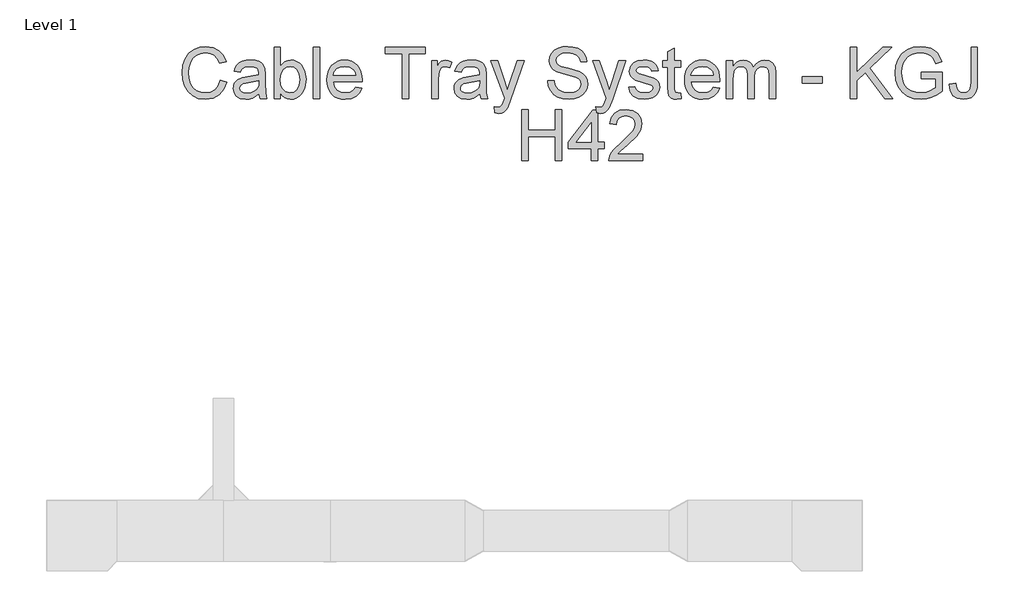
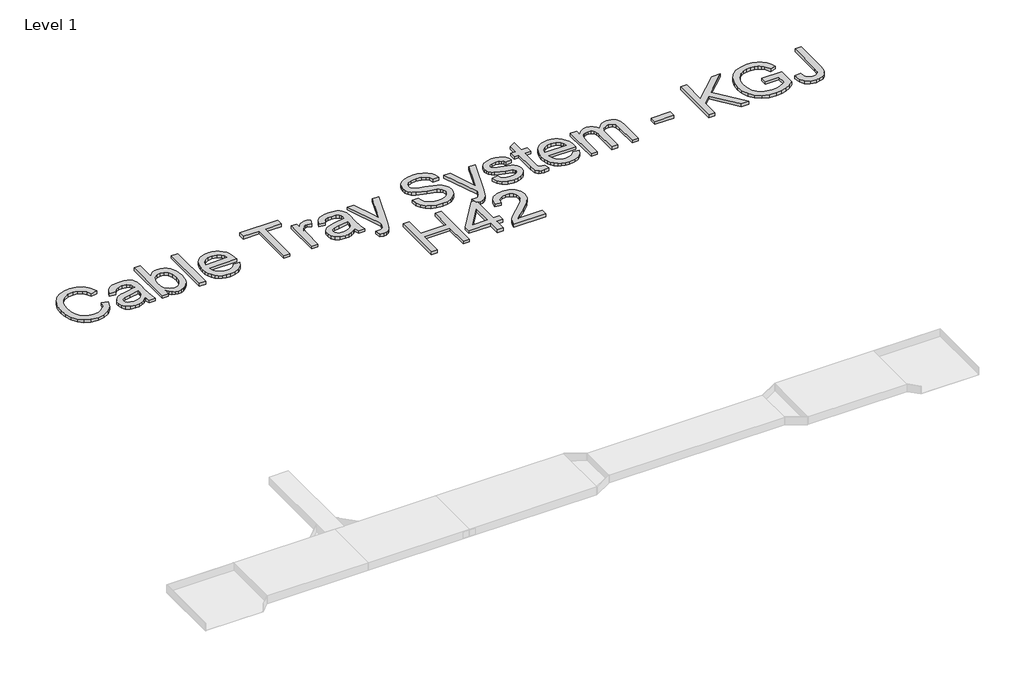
# One storey, part 9 of 32: 1 proxy.
"""IFC4 building model written with IfcOpenShell, lengths in millimetres."""

from ifc_helpers import new_model, si_unit, origin, origin_with_axes, place, context, project, spatial, polyline, outline, extrude, element, save

model = new_model("IFC4")

# Units and contexts
model_context = context("Model", 3, world=origin())
ifc_project = project(units=[si_unit("LENGTHUNIT", "METRE", prefix="MILLI")], contexts=[model_context])

# Site, building, storey
site = spatial("IfcSite", under=ifc_project)
building = spatial("IfcBuilding", under=site)
storey = spatial("IfcBuildingStorey", under=building, Name="Level 1", Elevation=0.0)

# Proxy
placement = place(None, origin())
element("IfcBuildingElementProxy", 1, Name="250mm Arial 3", ObjectType="250mm Arial 3", at=placement, inside=storey, context=model_context, shape_type="SweptSolid", body=[
    extrude(outline(polyline([(-19340.3713614, 37392.4106539), (-19308.9787644, 37384.31725), (-19323.464118, 37347.7359841), (-19346.1961596, 37321.01089), (-19376.0559149, 37304.6631338), (-19411.9244094, 37299.2138818), (-19448.3370627, 37303.3372258), (-19477.2541204, 37315.7072579), (-19499.4190106, 37335.8947824), (-19515.5751616, 37363.4706036), (-19525.4389976, 37395.8902044), (-19528.7269429, 37430.6090677), (-19525.0098019, 37467.2286547), (-19513.8583789, 37498.8511778), (-19495.8551538, 37524.472626), (-19471.5826063, 37543.0889878), (-19442.7958402, 37554.4243517), (-19411.2499591, 37558.2028064), (-19376.8299999, 37553.3130415), (-19348.3727947, 37538.643747), (-19326.7673917, 37515.0992993), (-19312.902839, 37483.584075), (-19344.295436, 37476.1038078), (-19355.1786117, 37498.9967978), (-19370.0471756, 37514.7007605), (-19389.0850689, 37523.7828472), (-19412.4762324, 37526.8102095), (-19439.438917, 37523.4532863), (-19461.5884788, 37513.3825166), (-19478.3960874, 37497.6555613), (-19489.3329126, 37477.3300811), (-19495.3339876, 37454.3527848), (-19497.334346, 37430.6703814), (-19494.9661056, 37401.6690174), (-19487.8613846, 37376.5917281), (-19475.7519356, 37356.3965394), (-19458.3695113, 37342.0414774), (-19437.5305291, 37333.4652284), (-19415.0514064, 37330.6064787), (-19388.8474784, 37334.4998965), (-19367.0121492, 37346.1801498), (-19350.5264373, 37365.5246114), (-19340.3713614, 37392.4106539)])), origin_with_axes(), (0.0, 0.0, 1.0), 15.0),
    extrude(outline(polyline([(-19152.0157798, 37326.6824041), (-19167.0146353, 37313.8218627), (-19182.4580149, 37305.406562), (-19198.6984722, 37300.7620518), (-19216.0885606, 37299.2138818), (-19242.3231454, 37302.938687), (-19261.6752712, 37314.1131026), (-19273.6084434, 37331.0816596), (-19277.5861675, 37352.1888891), (-19276.0839827, 37365.2027147), (-19271.5774283, 37377.0209238), (-19255.7891593, 37395.0471415), (-19233.8082101, 37405.3478374), (-19206.6462561, 37410.0689897), (-19152.1997208, 37420.8601949), (-19152.0157798, 37427.8499528), (-19154.1770865, 37441.8601254), (-19160.6610067, 37451.0265185), (-19175.1616887, 37457.8323354), (-19195.3645416, 37460.100941), (-19214.0652097, 37458.591092), (-19227.1250205, 37454.0615449), (-19236.0308305, 37445.6845653), (-19242.269496, 37432.6324187), (-19273.6620929, 37436.5564933), (-19268.2128408, 37453.7243198), (-19260.0811159, 37467.2133262), (-19248.5081615, 37477.5293505), (-19232.7352209, 37485.1782303), (-19213.4444088, 37489.914711), (-19191.3178396, 37491.4935379), (-19170.095647, 37490.098652), (-19153.27271, 37485.9139943), (-19140.5884453, 37479.6216794), (-19131.7822701, 37471.9038217), (-19122.1560245, 37450.5973228), (-19120.6231829, 37423.1288005), (-19120.6231829, 37384.0719953), (-19119.0290276, 37329.5334895), (-19112.7750337, 37303.1379564), (-19144.1676306, 37303.1379564), (-19152.0157798, 37326.6824041)]), holes=[polyline([(-19152.0157798, 37389.4675979), (-19202.6608678, 37379.8413524), (-19229.6695376, 37374.7523181), (-19241.901614, 37366.4749732), (-19246.1935706, 37354.3961811), (-19243.8559871, 37345.0611754), (-19236.8432365, 37337.4122956), (-19225.3086032, 37332.3079329), (-19209.4053711, 37330.6064787), (-19192.544113, 37332.4842097), (-19177.6448922, 37338.1174028), (-19165.5661, 37346.4177403), (-19157.1661278, 37356.2969047), (-19153.4413226, 37366.4749732), (-19152.1997208, 37380.5771164), (-19152.0157798, 37389.4675979)])]), origin_with_axes(), (0.0, 0.0, 1.0), 15.0),
    extrude(outline(polyline([(-19046.0657652, 37303.1379564), (-19077.4583621, 37303.1379564), (-19077.4583621, 37554.2787318), (-19046.0657652, 37554.2787318), (-19046.0657652, 37461.1432733), (-19035.7420767, 37474.4215141), (-19024.084816, 37483.9059718), (-19011.093983, 37489.5966464), (-18996.7695779, 37491.4935379), (-18980.5980985, 37489.7844195), (-18965.3156673, 37484.6570642), (-18951.7960039, 37476.4333687), (-18940.9128283, 37465.4352299), (-18925.921637, 37435.5448178), (-18920.4953775, 37398.1128248), (-18926.1132422, 37356.2049342), (-18933.135573, 37339.2746982), (-18942.9668361, 37325.0269351), (-18954.7678007, 37313.7337243), (-18967.699236, 37305.6671451), (-18981.7611421, 37300.8271976), (-18996.9535189, 37299.2138818), (-19011.7492728, 37301.2947143), (-19024.8665652, 37307.5372119), (-19036.305396, 37317.9413746), (-19046.0657652, 37332.5072023), (-19046.0657652, 37303.1379564)]), holes=[polyline([(-19046.0657652, 37396.6412968), (-19043.9197869, 37370.4603615), (-19037.481852, 37352.7407121), (-19021.0344611, 37336.140037), (-18999.6513202, 37330.6064787), (-18981.5331319, 37334.6838375), (-18966.0514313, 37346.9159138), (-18955.4288386, 37367.2260656), (-18951.8879744, 37395.5376509), (-18955.2832187, 37424.2631033), (-18965.4689514, 37444.3433289), (-18980.4678069, 37456.161538), (-18998.3024195, 37460.100941), (-19016.4206078, 37456.0235822), (-19031.9023084, 37443.7915059), (-19042.524901, 37423.8492361), (-19046.0657652, 37396.6412968)])]), origin_with_axes(), (0.0, 0.0, 1.0), 15.0),
    extrude(outline(polyline([(-18885.178706, 37303.1379564), (-18885.178706, 37554.2787318), (-18853.7861091, 37554.2787318), (-18853.7861091, 37303.1379564), (-18885.178706, 37303.1379564)])), origin_with_axes(), (0.0, 0.0, 1.0), 15.0),
    extrude(outline(polyline([(-18677.5706334, 37358.075001), (-18646.7911731, 37354.1509264), (-18657.8812824, 37330.9590323), (-18675.5779392, 37313.6225933), (-18699.4826047, 37302.8160597), (-18729.19674, 37299.2138818), (-18748.6753253, 37300.7678), (-18766.0309248, 37305.4295547), (-18781.2635387, 37313.1991458), (-18794.3731668, 37324.0765733), (-18804.9152853, 37337.759101), (-18812.4453699, 37353.9439928), (-18816.9634206, 37372.6312485), (-18818.4694375, 37393.8208682), (-18816.9480922, 37415.7290074), (-18812.3840562, 37435.0389801), (-18804.7773295, 37451.7507861), (-18794.1279122, 37465.8644256), (-18781.0527729, 37477.0771622), (-18766.1688805, 37485.0862598), (-18749.476235, 37489.8917184), (-18730.9748363, 37491.4935379), (-18713.0693299, 37489.8955505), (-18696.8767739, 37485.1015883), (-18682.3971685, 37477.1116512), (-18669.6305136, 37465.9257393), (-18659.2091065, 37451.8427566), (-18651.7652443, 37435.1616074), (-18647.2989269, 37415.8822916), (-18645.8101545, 37394.0048092), (-18645.9940955, 37385.5435233), (-18787.0768406, 37385.5435233), (-18781.642917, 37362.0450609), (-18769.019966, 37344.7699355), (-18750.802143, 37334.1473429), (-18728.5836034, 37330.6064787), (-18711.8756294, 37332.2466193), (-18697.8041431, 37337.1670409), (-18686.3691444, 37345.6743121), (-18677.5706334, 37358.075001)]), holes=[polyline([(-18787.0768406, 37416.9361202), (-18677.2027514, 37416.9361202), (-18681.4487227, 37433.5214669), (-18689.7720529, 37445.3856612), (-18708.0741821, 37456.4221211), (-18731.0974637, 37460.100941), (-18752.2583426, 37457.1655493), (-18769.75573, 37448.359374), (-18781.9188285, 37434.632777), (-18787.0768406, 37416.9361202)])]), origin_with_axes(), (0.0, 0.0, 1.0), 15.0),
    extrude(outline(polyline([(-18449.6064237, 37303.1379564), (-18449.6064237, 37522.8861348), (-18532.0119906, 37522.8861348), (-18532.0119906, 37554.2787318), (-18335.8082599, 37554.2787318), (-18335.8082599, 37522.8861348), (-18418.2138268, 37522.8861348), (-18418.2138268, 37303.1379564), (-18449.6064237, 37303.1379564)])), origin_with_axes(), (0.0, 0.0, 1.0), 15.0),
    extrude(outline(polyline([(-18304.4156629, 37303.1379564), (-18304.4156629, 37487.5694633), (-18276.9471406, 37487.5694633), (-18276.9471406, 37460.284882), (-18266.7997289, 37476.1038078), (-18257.4493949, 37485.423485), (-18237.8290218, 37491.4935379), (-18222.194037, 37489.0716481), (-18206.3137976, 37481.8059787), (-18216.7984344, 37453.6630061), (-18238.8713541, 37460.100941), (-18248.2446808, 37458.5527709), (-18256.6216604, 37453.9082608), (-18267.9340317, 37436.7404343), (-18273.023066, 37400.0748621), (-18273.023066, 37303.1379564), (-18304.4156629, 37303.1379564)])), origin_with_axes(), (0.0, 0.0, 1.0), 15.0),
    extrude(outline(polyline([(-18068.971186, 37326.6824041), (-18083.9700415, 37313.8218627), (-18099.4134211, 37305.406562), (-18115.6538784, 37300.7620518), (-18133.0439668, 37299.2138818), (-18159.2785516, 37302.938687), (-18178.6306774, 37314.1131026), (-18190.5638496, 37331.0816596), (-18194.5415737, 37352.1888891), (-18193.0393889, 37365.2027147), (-18188.5328345, 37377.0209238), (-18172.7445655, 37395.0471415), (-18150.7636163, 37405.3478374), (-18123.6016623, 37410.0689897), (-18069.155127, 37420.8601949), (-18068.971186, 37427.8499528), (-18071.1324927, 37441.8601254), (-18077.6164129, 37451.0265185), (-18092.1170949, 37457.8323354), (-18112.3199478, 37460.100941), (-18131.0206159, 37458.591092), (-18144.0804267, 37454.0615449), (-18152.9862367, 37445.6845653), (-18159.2249022, 37432.6324187), (-18190.6174991, 37436.5564933), (-18185.168247, 37453.7243198), (-18177.0365221, 37467.2133262), (-18165.4635677, 37477.5293505), (-18149.6906271, 37485.1782303), (-18130.399815, 37489.914711), (-18108.2732458, 37491.4935379), (-18087.0510532, 37490.098652), (-18070.2281162, 37485.9139943), (-18057.5438515, 37479.6216794), (-18048.7376763, 37471.9038217), (-18039.1114307, 37450.5973228), (-18037.5785891, 37423.1288005), (-18037.5785891, 37384.0719953), (-18035.9844338, 37329.5334895), (-18029.7304399, 37303.1379564), (-18061.1230368, 37303.1379564), (-18068.971186, 37326.6824041)]), holes=[polyline([(-18068.971186, 37389.4675979), (-18119.616274, 37379.8413524), (-18146.6249438, 37374.7523181), (-18158.8570202, 37366.4749732), (-18163.1489768, 37354.3961811), (-18160.8113933, 37345.0611754), (-18153.7986427, 37337.4122956), (-18142.2640094, 37332.3079329), (-18126.3607773, 37330.6064787), (-18109.4995192, 37332.4842097), (-18094.6002984, 37338.1174028), (-18082.5215062, 37346.4177403), (-18074.121534, 37356.2969047), (-18070.3967288, 37366.4749732), (-18069.155127, 37380.5771164), (-18068.971186, 37389.4675979)])]), origin_with_axes(), (0.0, 0.0, 1.0), 15.0),
    extrude(outline(polyline([(-17994.4137683, 37232.5046133), (-17998.3378429, 37262.7322506), (-17982.3962898, 37259.9731356), (-17967.497069, 37263.4373577), (-17958.3613328, 37273.0942601), (-17949.7774196, 37296.2095122), (-17947.3248729, 37303.8124067), (-18014.0341414, 37487.5694633), (-17980.9247618, 37487.5694633), (-17945.5467766, 37385.1756413), (-17933.2227298, 37344.2181125), (-17920.898683, 37380.3931754), (-17884.5396791, 37487.5694633), (-17851.6755542, 37487.5694633), (-17915.8709624, 37298.7233725), (-17932.5482795, 37257.7658437), (-17941.0862074, 37244.6907044), (-17950.7584382, 37235.6316103), (-17961.9941675, 37230.3433066), (-17975.2225909, 37228.5805387), (-17994.4137683, 37232.5046133)])), origin_with_axes(), (0.0, 0.0, 1.0), 15.0),
    extrude(outline(polyline([(-17735.4248437, 37389.4675979), (-17704.0322468, 37389.4675979), (-17700.4300689, 37372.0468526), (-17693.9154919, 37358.0443442), (-17683.7527518, 37346.9312422), (-17669.2060846, 37338.1787164), (-17651.4251215, 37332.4995381), (-17631.5594938, 37330.6064787), (-17614.0697706, 37332.0396856), (-17598.7566825, 37336.3393065), (-17586.3483294, 37343.1451234), (-17577.572811, 37352.0969186), (-17572.3534852, 37362.3746218), (-17570.6137099, 37373.1581628), (-17575.8253715, 37392.7478791), (-17583.7654912, 37400.4963936), (-17597.1625272, 37407.0033064), (-17642.8718651, 37418.990128), (-17692.076082, 37434.4718287), (-17707.7034025, 37445.0331076), (-17718.7781834, 37457.8323354), (-17725.3770667, 37472.5936004), (-17727.5766945, 37489.0409913), (-17724.8559006, 37507.4274268), (-17716.6935188, 37524.5722607), (-17703.304147, 37539.1035995), (-17684.9023831, 37549.64955), (-17662.8141349, 37556.0644923), (-17638.3653107, 37558.2028064), (-17611.877807, 37555.9648576), (-17588.7012413, 37549.2510112), (-17569.6633481, 37538.1992229), (-17555.5918618, 37522.9474485), (-17546.6860518, 37504.4460498), (-17543.1451876, 37483.6453887), (-17574.5377845, 37483.6453887), (-17580.3012691, 37502.3767136), (-17592.3187476, 37515.8963769), (-17611.0960578, 37524.0817513), (-17637.1390373, 37526.8102095), (-17663.7951536, 37524.1124082), (-17682.0819544, 37516.0190043), (-17692.6585618, 37504.1088247), (-17696.1840976, 37489.9606963), (-17693.6855657, 37477.8972325), (-17686.18997, 37468.1943449), (-17668.4703206, 37459.5184612), (-17634.9317454, 37450.6586365), (-17579.3815641, 37434.9010243), (-17561.4856379, 37423.5120109), (-17549.0006427, 37409.455853), (-17541.6659954, 37392.8858348), (-17539.221113, 37373.9552405), (-17542.0338774, 37354.6031147), (-17550.4721707, 37336.4006201), (-17564.1911034, 37320.7349785), (-17582.8457862, 37308.9934115), (-17605.2789237, 37301.6587642), (-17630.3332204, 37299.2138818), (-17661.0896881, 37301.8503694), (-17686.4045679, 37309.7598323), (-17706.5690997, 37322.9729273), (-17721.8745236, 37341.5203112), (-17731.7000385, 37364.1143971), (-17735.4248437, 37389.4675979)])), origin_with_axes(), (0.0, 0.0, 1.0), 15.0),
    extrude(outline(polyline([(-17496.0562922, 37232.5046133), (-17499.9803668, 37262.7322506), (-17484.0388137, 37259.9731356), (-17469.1395929, 37263.4373577), (-17460.0038567, 37273.0942601), (-17451.4199435, 37296.2095122), (-17448.9673968, 37303.8124067), (-17515.6766653, 37487.5694633), (-17482.5672857, 37487.5694633), (-17447.1893005, 37385.1756413), (-17434.8652537, 37344.2181125), (-17422.5412068, 37380.3931754), (-17386.182203, 37487.5694633), (-17353.3180781, 37487.5694633), (-17417.5134862, 37298.7233725), (-17434.1908033, 37257.7658437), (-17442.7287313, 37244.6907044), (-17452.4009621, 37235.6316103), (-17463.6366914, 37230.3433066), (-17476.8651148, 37228.5805387), (-17496.0562922, 37232.5046133)])), origin_with_axes(), (0.0, 0.0, 1.0), 15.0),
    extrude(outline(polyline([(-17339.0933076, 37358.075001), (-17307.7007107, 37361.9990756), (-17302.7496322, 37348.5713828), (-17293.1693719, 37338.6998826), (-17278.8986161, 37332.6298297), (-17259.8760513, 37330.6064787), (-17241.0834127, 37332.4612171), (-17227.8703177, 37338.0254323), (-17220.0528253, 37346.0881793), (-17217.4469945, 37355.4385134), (-17220.0681537, 37363.4399468), (-17227.9316314, 37369.5406565), (-17260.2439333, 37378.4924517), (-17307.5167697, 37393.851525), (-17319.4805987, 37401.5693827), (-17328.1488182, 37411.7857723), (-17333.4141293, 37423.8492361), (-17335.169233, 37437.1083163), (-17329.5283757, 37460.4994798), (-17314.1386456, 37478.3724134), (-17294.1810473, 37487.6614338), (-17267.1723775, 37491.4935379), (-17246.7395984, 37489.9530321), (-17228.9739637, 37485.3315145), (-17214.6878796, 37478.0811735), (-17204.693752, 37468.6541974), (-17198.0718761, 37456.3531432), (-17193.9025468, 37440.4805679), (-17225.2951437, 37436.5564933), (-17229.2575394, 37446.4356577), (-17237.0980244, 37453.8776039), (-17248.8932409, 37458.5451067), (-17264.7198309, 37460.100941), (-17282.7460487, 37458.6140846), (-17294.7635272, 37454.1535154), (-17301.5233588, 37447.7155805), (-17303.7766361, 37440.2966269), (-17300.0365024, 37431.1608907), (-17288.3255923, 37424.2324465), (-17261.2862656, 37417.5492569), (-17215.2090457, 37402.7726634), (-17203.038283, 37395.7062634), (-17193.8105763, 37386.0340326), (-17187.9934423, 37373.7253142), (-17186.0543976, 37358.7494513), (-17188.3306674, 37343.2677507), (-17195.159477, 37328.7057551), (-17206.2802431, 37316.2054314), (-17221.4323828, 37306.9087468), (-17239.7345121, 37301.137598), (-17260.305247, 37299.2138818), (-17291.958427, 37302.9233586), (-17315.0583506, 37314.0517889), (-17330.4787375, 37332.4765455), (-17339.0933076, 37358.075001)])), origin_with_axes(), (0.0, 0.0, 1.0), 15.0),
    extrude(outline(polyline([(-17084.0284576, 37329.3188917), (-17080.104383, 37302.2182514), (-17103.587517, 37299.2138818), (-17118.6553504, 37300.5167972), (-17129.8910797, 37304.4255434), (-17143.0122042, 37318.0984909), (-17146.8136514, 37353.7217307), (-17146.8136514, 37456.1768664), (-17170.3580991, 37456.1768664), (-17170.3580991, 37487.5694633), (-17146.8136514, 37487.5694633), (-17146.8136514, 37532.3897531), (-17115.4210545, 37550.8451665), (-17115.4210545, 37487.5694633), (-17084.0284576, 37487.5694633), (-17084.0284576, 37456.1768664), (-17115.4210545, 37456.1768664), (-17115.4210545, 37354.6414357), (-17113.7655855, 37338.4546279), (-17108.4006398, 37332.7218002), (-17097.7014051, 37330.6064787), (-17084.0284576, 37329.3188917)])), origin_with_axes(), (0.0, 0.0, 1.0), 15.0),
    extrude(outline(polyline([(-16923.5092804, 37358.075001), (-16892.7298201, 37354.1509264), (-16903.8199294, 37330.9590323), (-16921.5165862, 37313.6225933), (-16945.4212517, 37302.8160597), (-16975.135387, 37299.2138818), (-16994.6139723, 37300.7678), (-17011.9695718, 37305.4295547), (-17027.2021857, 37313.1991458), (-17040.3118138, 37324.0765733), (-17050.8539323, 37337.759101), (-17058.3840169, 37353.9439928), (-17062.9020676, 37372.6312485), (-17064.4080845, 37393.8208682), (-17062.8867392, 37415.7290074), (-17058.3227032, 37435.0389801), (-17050.7159765, 37451.7507861), (-17040.0665592, 37465.8644256), (-17026.9914199, 37477.0771622), (-17012.1075275, 37485.0862598), (-16995.414882, 37489.8917184), (-16976.9134833, 37491.4935379), (-16959.0079769, 37489.8955505), (-16942.8154209, 37485.1015883), (-16928.3358155, 37477.1116512), (-16915.5691606, 37465.9257393), (-16905.1477535, 37451.8427566), (-16897.7038913, 37435.1616074), (-16893.2375739, 37415.8822916), (-16891.7488015, 37394.0048092), (-16891.9327425, 37385.5435233), (-17033.0154876, 37385.5435233), (-17027.581564, 37362.0450609), (-17014.958613, 37344.7699355), (-16996.74079, 37334.1473429), (-16974.5222504, 37330.6064787), (-16957.8142764, 37332.2466193), (-16943.7427901, 37337.1670409), (-16932.3077914, 37345.6743121), (-16923.5092804, 37358.075001)]), holes=[polyline([(-17033.0154876, 37416.9361202), (-16923.1413984, 37416.9361202), (-16927.3873697, 37433.5214669), (-16935.7106999, 37445.3856612), (-16954.0128291, 37456.4221211), (-16977.0361107, 37460.100941), (-16998.1969896, 37457.1655493), (-17015.694377, 37448.359374), (-17027.8574755, 37434.632777), (-17033.0154876, 37416.9361202)])]), origin_with_axes(), (0.0, 0.0, 1.0), 15.0),
    extrude(outline(polyline([(-16860.3562045, 37303.1379564), (-16860.3562045, 37487.5694633), (-16828.9636076, 37487.5694633), (-16828.9636076, 37457.2191987), (-16819.5213031, 37471.1603935), (-16807.3811972, 37482.0818902), (-16792.9571573, 37489.140626), (-16776.6630506, 37491.4935379), (-16759.2039843, 37489.0946407), (-16745.20914, 37481.8979492), (-16734.75516, 37470.3786442), (-16727.9186863, 37455.0119067), (-16716.4760234, 37470.9726204), (-16703.4238768, 37482.3731301), (-16688.7622464, 37489.213436), (-16672.4911323, 37491.4935379), (-16648.8930352, 37487.6997549), (-16631.441633, 37476.3184056), (-16620.6580921, 37457.0429219), (-16617.0635784, 37429.5667354), (-16617.0635784, 37303.1379564), (-16648.4561753, 37303.1379564), (-16648.4561753, 37416.0777289), (-16651.3685744, 37442.2893211), (-16661.914525, 37455.1958477), (-16679.8487722, 37460.100941), (-16696.8556503, 37456.9586156), (-16710.720203, 37447.5316395), (-16719.9402455, 37431.1762191), (-16723.013593, 37407.248561), (-16723.013593, 37303.1379564), (-16754.4061899, 37303.1379564), (-16754.4061899, 37419.5726079), (-16756.2226073, 37437.3229141), (-16761.6718593, 37449.9841861), (-16771.2597838, 37457.5717523), (-16785.4922185, 37460.100941), (-16797.5863391, 37458.4148152), (-16808.7300979, 37453.3564378), (-16817.9271478, 37445.048436), (-16824.1811417, 37433.6134374), (-16828.9636076, 37396.1507875), (-16828.9636076, 37303.1379564), (-16860.3562045, 37303.1379564)])), origin_with_axes(), (0.0, 0.0, 1.0), 15.0),
    extrude(outline(polyline([(-16487.5691161, 37377.6953741), (-16487.5691161, 37409.087971), (-16389.4672507, 37409.087971), (-16389.4672507, 37377.6953741), (-16487.5691161, 37377.6953741)])), origin_with_axes(), (0.0, 0.0, 1.0), 15.0),
    extrude(outline(polyline([(-16252.1246392, 37303.1379564), (-16252.1246392, 37554.2787318), (-16220.7320423, 37554.2787318), (-16220.7320423, 37431.3448317), (-16091.9733439, 37554.2787318), (-16048.0727592, 37554.2787318), (-16156.1687521, 37451.0265185), (-16044.1486846, 37303.1379564), (-16082.5310394, 37303.1379564), (-16178.4256128, 37429.8119901), (-16220.7320423, 37389.4675979), (-16220.7320423, 37303.1379564), (-16252.1246392, 37303.1379564)])), origin_with_axes(), (0.0, 0.0, 1.0), 15.0),
    extrude(outline(polyline([(-15902.8819984, 37401.2398218), (-15902.8819984, 37432.6324187), (-15800.8560584, 37432.6324187), (-15800.8560584, 37338.7611963), (-15825.6497721, 37321.5167277), (-15851.2252349, 37309.1466957), (-15877.5211334, 37301.6970852), (-15904.4761537, 37299.2138818), (-15939.6931906, 37303.160949), (-15971.5226474, 37315.0021507), (-15997.9641658, 37334.3236197), (-16017.0173874, 37360.7114886), (-16028.5366924, 37392.3646686), (-16032.3764607, 37427.4820708), (-16028.5520208, 37462.8523918), (-16017.0787011, 37495.7548377), (-15998.4316825, 37523.3536516), (-15973.0861458, 37542.8130763), (-15942.2147151, 37554.3553739), (-15906.990014, 37558.2028064), (-15881.1309755, 37555.9725218), (-15857.8777677, 37549.281668), (-15838.2957156, 37538.6130901), (-15823.4501443, 37524.4496333), (-15812.4673339, 37506.109183), (-15804.4735647, 37482.9096247), (-15833.413615, 37474.7549071), (-15847.730356, 37503.7869279), (-15858.1230223, 37513.1985756), (-15872.1945087, 37520.5255587), (-15888.9714605, 37525.2390468), (-15907.4805234, 37526.8102095), (-15929.14724, 37525.1164194), (-15947.6716313, 37520.0350494), (-15962.9847194, 37512.2022286), (-15975.0175263, 37502.2540863), (-15991.1736773, 37478.0658451), (-15998.5313172, 37454.3681132), (-16000.9838638, 37428.7696577), (-15998.0331436, 37398.7489541), (-15989.1809831, 37374.047211), (-15974.6956296, 37354.8407051), (-15954.8453302, 37341.3057134), (-15931.6151151, 37333.2812874), (-15906.990014, 37330.6064787), (-15885.2466553, 37332.6221655), (-15864.0397911, 37338.6692258), (-15832.2486553, 37355.867709), (-15832.2486553, 37401.2398218), (-15902.8819984, 37401.2398218)])), origin_with_axes(), (0.0, 0.0, 1.0), 15.0),
    extrude(outline(polyline([(-15765.5393869, 37373.6486721), (-15734.14679, 37377.6953741), (-15730.8818373, 37354.871362), (-15723.4168984, 37340.6006062), (-15712.0125566, 37333.1050106), (-15696.9293948, 37330.6064787), (-15685.3334477, 37332.0243572), (-15675.4389549, 37336.2779928), (-15667.8054035, 37342.9765108), (-15662.9922807, 37351.7290366), (-15659.5893723, 37382.845722), (-15659.5893723, 37554.2787318), (-15628.1967754, 37554.2787318), (-15628.1967754, 37383.397545), (-15630.0898348, 37355.4461776), (-15635.7690131, 37334.6225238), (-15645.5638712, 37319.4090705), (-15659.8039701, 37308.2883043), (-15677.6845679, 37301.4824874), (-15698.4009228, 37299.2138818), (-15727.4176151, 37303.896713), (-15748.7394424, 37317.9452067), (-15761.6766259, 37341.2367355), (-15765.5393869, 37373.6486721)])), origin_with_axes(), (0.0, 0.0, 1.0), 15.0),
    extrude(outline(polyline([(-17862.9572687, 36998.2009118), (-17862.9572687, 37249.3416872), (-17831.5646718, 37249.3416872), (-17831.5646718, 37147.3157472), (-17698.1461349, 37147.3157472), (-17698.1461349, 37249.3416872), (-17666.753538, 37249.3416872), (-17666.753538, 36998.2009118), (-17698.1461349, 36998.2009118), (-17698.1461349, 37115.9231502), (-17831.5646718, 37115.9231502), (-17831.5646718, 36998.2009118), (-17862.9572687, 36998.2009118)])), origin_with_axes(), (0.0, 0.0, 1.0), 15.0),
    extrude(outline(polyline([(-17521.5627772, 36998.2009118), (-17521.5627772, 37057.062031), (-17635.360941, 37057.062031), (-17635.360941, 37088.4546279), (-17513.714628, 37245.4176125), (-17490.1701803, 37245.4176125), (-17490.1701803, 37088.4546279), (-17458.7775834, 37088.4546279), (-17458.7775834, 37057.062031), (-17490.1701803, 37057.062031), (-17490.1701803, 36998.2009118), (-17521.5627772, 36998.2009118)]), holes=[polyline([(-17521.5627772, 37088.4546279), (-17521.5627772, 37185.4528473), (-17596.7333315, 37088.4546279), (-17521.5627772, 37088.4546279)])]), origin_with_axes(), (0.0, 0.0, 1.0), 15.0),
    extrude(outline(polyline([(-17270.4220018, 37029.5935087), (-17270.4220018, 36998.2009118), (-17435.2331357, 36998.2009118), (-17431.860884, 37019.8446358), (-17424.1200337, 37036.7595434), (-17412.792334, 37053.1686132), (-17373.4902741, 37089.5582739), (-17339.6144738, 37119.6479554), (-17319.2889935, 37141.8588309), (-17309.1262534, 37159.8850487), (-17305.7386734, 37177.4207571), (-17308.9346482, 37193.1400482), (-17318.5225727, 37206.2075232), (-17333.2608451, 37215.0136985), (-17351.9078638, 37217.9490902), (-17371.4899158, 37215.0826764), (-17386.7033691, 37206.4834347), (-17396.5212199, 37192.8258156), (-17399.9164641, 37174.7842695), (-17431.309061, 37178.7083441), (-17423.6985023, 37209.0739371), (-17407.2434472, 37231.2541557), (-17382.8022871, 37244.8198043), (-17351.2334134, 37249.3416872), (-17319.4346135, 37244.3139666), (-17295.0394387, 37229.2308048), (-17279.519417, 37206.6980325), (-17274.3460764, 37179.3214807), (-17279.92562, 37149.553696), (-17298.473004, 37118.7742357), (-17343.4465779, 37075.7626991), (-17379.5603271, 37045.5657187), (-17393.7237839, 37029.5935087), (-17270.4220018, 37029.5935087)])), origin_with_axes(), (0.0, 0.0, 1.0), 15.0),
])

save(model, "model.ifc")
